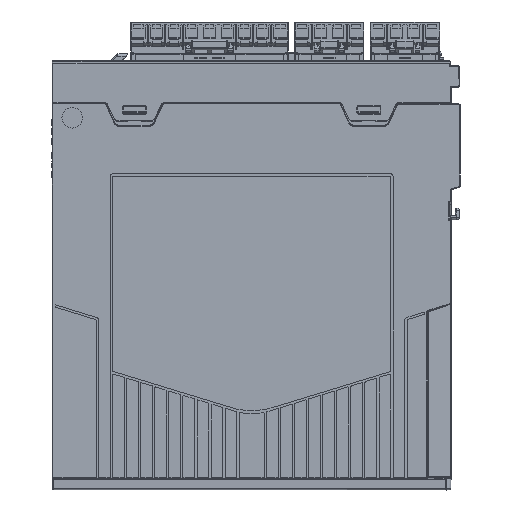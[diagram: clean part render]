
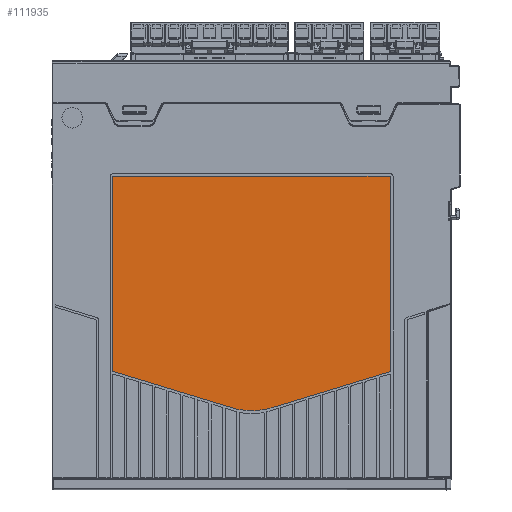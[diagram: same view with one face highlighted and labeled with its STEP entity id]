
A CAD part, left-side view. The second image highlights one B-rep face of the part: STEP entity #111935.
In plain terms, the highlighted planar face has unit normal (-1, 0, 0).
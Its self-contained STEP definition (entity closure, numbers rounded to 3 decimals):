
#30116=DIRECTION('',(0.,0.,1.));
#30117=VECTOR('',#30116,82.738);
#30118=CARTESIAN_POINT('',(-27.4,25.7,-132.203));
#30119=LINE('',#30118,#30117);
#30148=DIRECTION('',(0.,0.,-1.));
#30149=VECTOR('',#30148,82.738);
#30150=CARTESIAN_POINT('',(-27.4,144.3,-49.465));
#30151=LINE('',#30150,#30149);
#30160=CARTESIAN_POINT('',(-27.4,144.,-132.203));
#30161=DIRECTION('',(1.,0.,0.));
#30162=DIRECTION('',(0.,0.292,-0.956));
#30163=AXIS2_PLACEMENT_3D('',#30160,#30161,#30162);
#30165=CARTESIAN_POINT('',(-27.4,144.,-49.465));
#30166=DIRECTION('',(1.,0.,0.));
#30167=DIRECTION('',(0.,1.,0.));
#30168=AXIS2_PLACEMENT_3D('',#30165,#30166,#30167);
#30170=CARTESIAN_POINT('',(-27.4,26.,-49.465));
#30171=DIRECTION('',(1.,0.,0.));
#30172=DIRECTION('',(0.,0.,1.));
#30173=AXIS2_PLACEMENT_3D('',#30170,#30171,#30172);
#30175=CARTESIAN_POINT('',(-27.4,26.,-132.203));
#30176=DIRECTION('',(1.,0.,0.));
#30177=DIRECTION('',(0.,-1.,0.));
#30178=AXIS2_PLACEMENT_3D('',#30175,#30176,#30177);
#30180=DIRECTION('',(0.,0.956,-0.292));
#30181=VECTOR('',#30180,52.616);
#30182=CARTESIAN_POINT('',(-27.4,25.912,-132.49));
#30183=LINE('',#30182,#30181);
#30184=CARTESIAN_POINT('',(-27.4,85.,-119.184));
#30185=DIRECTION('',(1.,0.,0.));
#30186=DIRECTION('',(0.,-0.292,-0.956));
#30187=AXIS2_PLACEMENT_3D('',#30184,#30185,#30186);
#30189=CARTESIAN_POINT('',(-27.4,85.,-119.184));
#30190=DIRECTION('',(1.,0.,0.));
#30191=DIRECTION('',(0.,0.,-1.));
#30192=AXIS2_PLACEMENT_3D('',#30189,#30190,#30191);
#30194=DIRECTION('',(0.,0.956,0.292));
#30195=VECTOR('',#30194,52.616);
#30196=CARTESIAN_POINT('',(-27.4,93.771,-147.874));
#30197=LINE('',#30196,#30195);
#30198=DIRECTION('',(0.,1.,0.));
#30199=VECTOR('',#30198,118.);
#30200=CARTESIAN_POINT('',(-27.4,26.,-49.165));
#30201=LINE('',#30200,#30199);
#57663=CARTESIAN_POINT('',(-27.4,25.7,-132.203));
#57664=VERTEX_POINT('',#57663);
#57665=CARTESIAN_POINT('',(-27.4,25.7,-49.465));
#57666=VERTEX_POINT('',#57665);
#57667=CARTESIAN_POINT('',(-27.4,25.912,-132.49));
#57668=VERTEX_POINT('',#57667);
#57669=CARTESIAN_POINT('',(-27.4,76.229,-147.874));
#57670=VERTEX_POINT('',#57669);
#57671=CARTESIAN_POINT('',(-27.4,93.771,-147.874));
#57672=VERTEX_POINT('',#57671);
#57673=CARTESIAN_POINT('',(-27.4,85.,-149.184));
#57674=VERTEX_POINT('',#57673);
#57675=CARTESIAN_POINT('',(-27.4,144.088,-132.49));
#57676=VERTEX_POINT('',#57675);
#57677=CARTESIAN_POINT('',(-27.4,144.3,-132.203));
#57678=VERTEX_POINT('',#57677);
#57679=CARTESIAN_POINT('',(-27.4,144.3,-49.465));
#57680=VERTEX_POINT('',#57679);
#57681=CARTESIAN_POINT('',(-27.4,144.,-49.165));
#57682=VERTEX_POINT('',#57681);
#57683=CARTESIAN_POINT('',(-27.4,26.,-49.165));
#57684=VERTEX_POINT('',#57683);
#111915=CARTESIAN_POINT('',(-27.4,85.,-98.35));
#111916=DIRECTION('',(-1.,0.,0.));
#111917=DIRECTION('',(0.,0.,1.));
#111918=AXIS2_PLACEMENT_3D('',#111915,#111916,#111917);
#111919=PLANE('',#111918);
#111920=ORIENTED_EDGE('',*,*,#111880,.T.);
#111921=ORIENTED_EDGE('',*,*,#111896,.F.);
#111922=ORIENTED_EDGE('',*,*,#111906,.T.);
#111924=ORIENTED_EDGE('',*,*,#111923,.F.);
#111926=ORIENTED_EDGE('',*,*,#111925,.T.);
#111927=ORIENTED_EDGE('',*,*,#111806,.F.);
#111928=ORIENTED_EDGE('',*,*,#111821,.T.);
#111929=ORIENTED_EDGE('',*,*,#111837,.T.);
#111930=ORIENTED_EDGE('',*,*,#111853,.T.);
#111931=ORIENTED_EDGE('',*,*,#111851,.T.);
#111932=ORIENTED_EDGE('',*,*,#111866,.T.);
#111933=EDGE_LOOP('',(#111920,#111921,#111922,#111924,#111926,#111927,#111928,
#111929,#111930,#111931,#111932));
#111934=FACE_OUTER_BOUND('',#111933,.F.);
#30164=CIRCLE('',#30163,0.3);
#30169=CIRCLE('',#30168,0.3);
#30174=CIRCLE('',#30173,0.3);
#30179=CIRCLE('',#30178,0.3);
#30188=CIRCLE('',#30187,30.);
#30193=CIRCLE('',#30192,30.);
#111806=EDGE_CURVE('',#57664,#57666,#30119,.T.);
#111821=EDGE_CURVE('',#57664,#57668,#30179,.T.);
#111837=EDGE_CURVE('',#57668,#57670,#30183,.T.);
#111851=EDGE_CURVE('',#57674,#57672,#30193,.T.);
#111853=EDGE_CURVE('',#57670,#57674,#30188,.T.);
#111866=EDGE_CURVE('',#57672,#57676,#30197,.T.);
#111880=EDGE_CURVE('',#57676,#57678,#30164,.T.);
#111896=EDGE_CURVE('',#57680,#57678,#30151,.T.);
#111906=EDGE_CURVE('',#57680,#57682,#30169,.T.);
#111923=EDGE_CURVE('',#57684,#57682,#30201,.T.);
#111925=EDGE_CURVE('',#57684,#57666,#30174,.T.);
#111935=ADVANCED_FACE('',(#111934),#111919,.T.);
